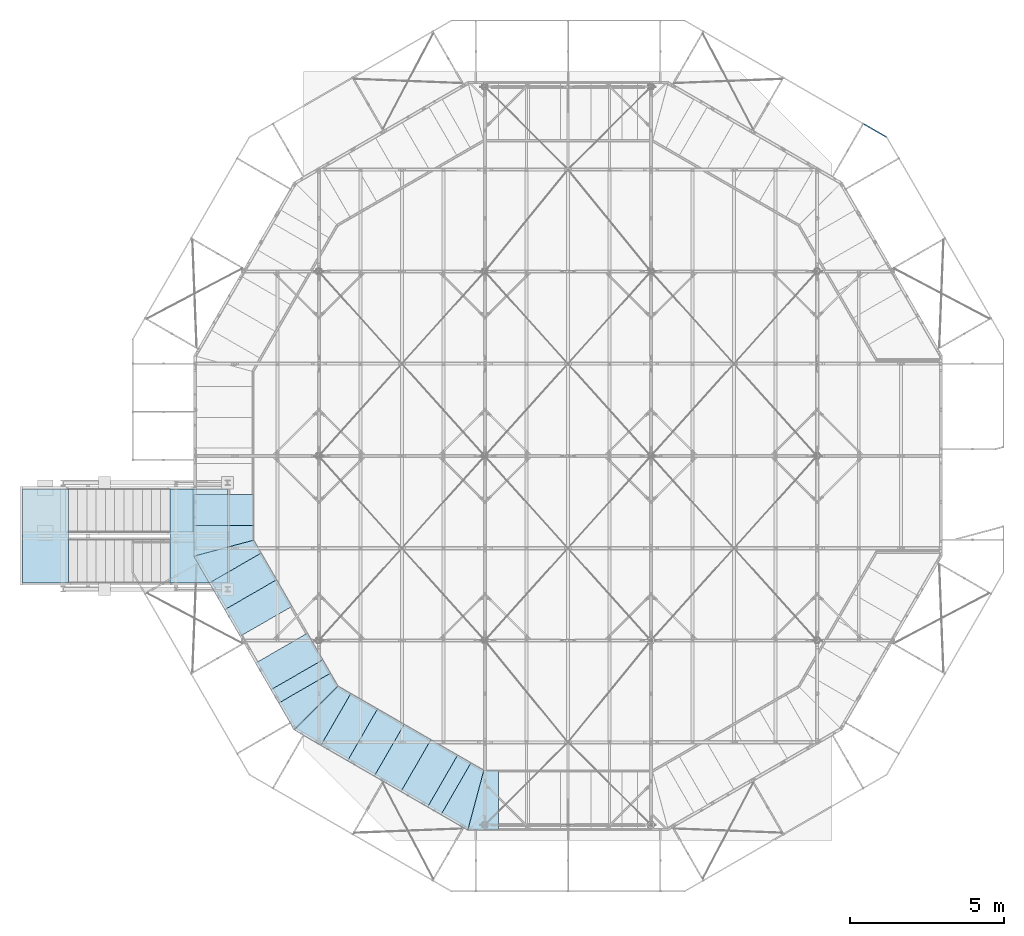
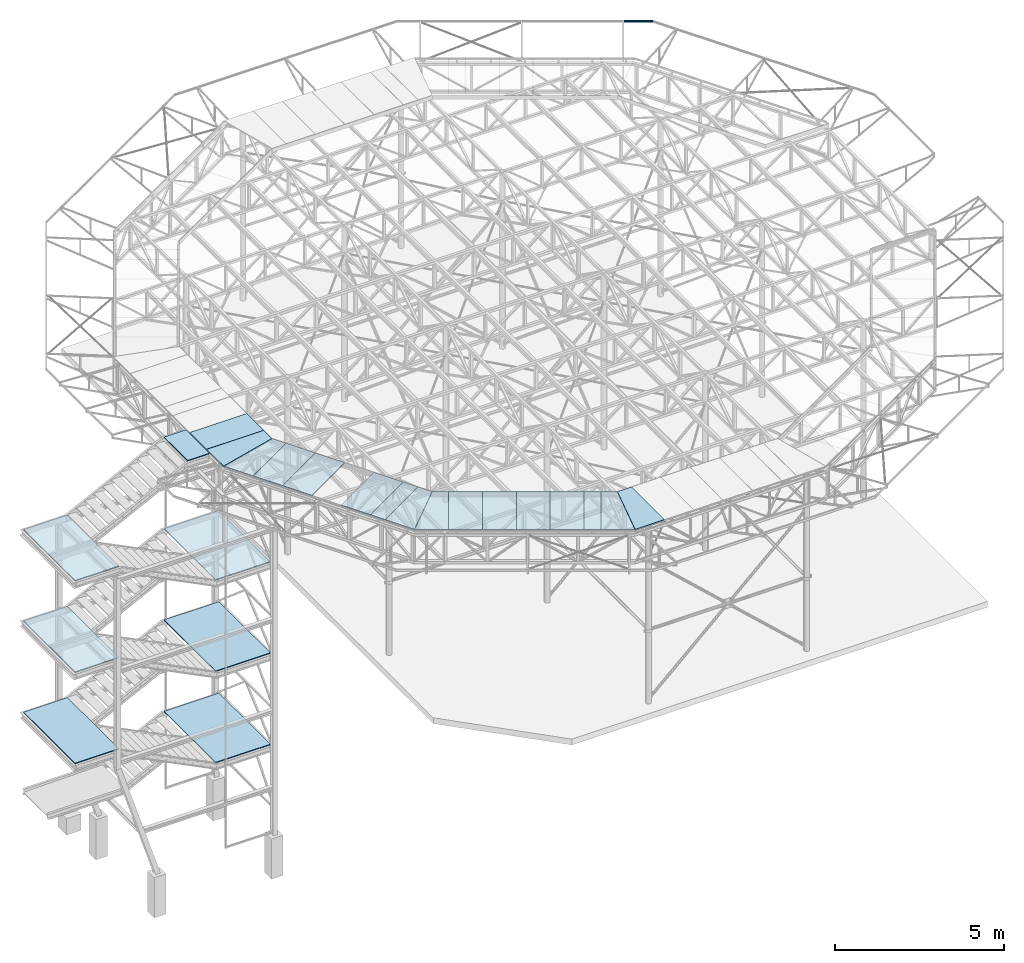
# One storey, part 30 of 132: 39 plates, 1 beam, 40 elements without a shape of their own.
"""IFC2X3 building model written with IfcOpenShell, lengths in millimetres."""

from ifc_helpers import new_model, si_unit, frame, origin_with_axes, origin_2d_with_axis, place, context, subcontext, project, spatial, polyline, u_section, outline, extrude, clip, halfspace, material, type_object, element, aggregate, save


model = new_model("IFC2X3")

# Units and contexts
model_context = context("Model", 3, precision=1e-05, world=origin_with_axes())
body_context = subcontext(model_context, "Body", "Model", "MODEL_VIEW")
ifc_project = project(units=[si_unit("LENGTHUNIT", "METRE", prefix="MILLI"), si_unit("AREAUNIT", "SQUARE_METRE"), si_unit("VOLUMEUNIT", "CUBIC_METRE"), si_unit("MASSUNIT", "GRAM", prefix="KILO"), si_unit("TIMEUNIT", "SECOND"), si_unit("PLANEANGLEUNIT", "RADIAN"), si_unit("SOLIDANGLEUNIT", "STERADIAN"), si_unit("THERMODYNAMICTEMPERATUREUNIT", "DEGREE_CELSIUS"), si_unit("LUMINOUSINTENSITYUNIT", "LUMEN")], contexts=[model_context])

# Site, building, storey
site_placement = place(None, origin_with_axes())
site = spatial("IfcSite", under=ifc_project, at=site_placement, Name="Budowa", CompositionType="ELEMENT")
building_placement = place(site_placement, origin_with_axes())
building = spatial("IfcBuilding", under=site, at=building_placement, Name="Undefined", CompositionType="ELEMENT")
storey_placement = place(building_placement, origin_with_axes())
storey = spatial("IfcBuildingStorey", under=building, at=storey_placement, Name="Undefined", CompositionType="ELEMENT", Elevation=0.0)

# Assembly, beam
assembly_1_placement = place(storey_placement, origin_with_axes())
assembly_1 = element("IfcElementAssembly", 1, at=assembly_1_placement, inside=storey, Name="Steel Assembly", AssemblyPlace="NOTDEFINED", PredefinedType="RIGID_FRAME")
ifc_material = material(Name="STEEL/S235")
beam_type = type_object("IfcBeamType", Name="C70*40*4", PredefinedType="NOTDEFINED")
beam_placement = place(assembly_1_placement, frame((22567.3094473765, 22316.0563407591, 13945.0050192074), z_axis=(0.0, 0.0, -1.0), x_axis=(-0.866042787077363, 0.499969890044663, 0.0)))
beam = element("IfcBeam", 2, at=beam_placement, type_object=beam_type, material=ifc_material, Name="BEAM", ObjectType="C70*40*4", context=body_context, shape_type="Clipping", body=[
    clip(extrude(u_section(Depth=70.0, FlangeWidth=40.0, WebThickness=4.0, FlangeThickness=4.0, FilletRadius=6.0, at=origin_2d_with_axis()), frame((950.000000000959, 1.82248795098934e-14, 0.0), z_axis=(-1.0, 0.0, 0.0), x_axis=(0.0, -1.0, 0.0)), (0.0, 0.0, 1.0), 895.26), halfspace(frame((87.0775807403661, 20.0000000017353, 1.32422428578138e-09), z_axis=(0.965919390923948, 0.258843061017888, 0.0), x_axis=(0.0, 0.0, -1.0)), True)),
])
aggregate(assembly_1, [beam])

# Assembly, plate
assembly_2_placement = place(storey_placement, origin_with_axes())
assembly_2 = element("IfcElementAssembly", 3, at=assembly_2_placement, inside=storey, Name="Steel Assembly", AssemblyPlace="NOTDEFINED", PredefinedType="RIGID_FRAME")
plate_type_1 = type_object("IfcPlateType", Name="BL2*1000", PredefinedType="NOTDEFINED")
plate_1_placement = place(assembly_2_placement, frame((-43.933160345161, 10745.711285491, 14031.0000000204), z_axis=(0.0, 0.0, 1.0), x_axis=(-2.66729999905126e-05, -0.999999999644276, 0.0)))
plate_1 = element("IfcPlate", 4, at=plate_1_placement, type_object=plate_type_1, material=ifc_material, Name="BLACHA RYFLOWANA", ObjectType="BL2*1000", context=body_context, shape_type="SweptSolid", body=[
    extrude(outline(polyline([(0.0, 0.0), (999.999999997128, 3.78349795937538e-10), (999.99999999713, 1950.9999999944), (-9.92986315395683e-09, 1950.9999999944), (0.0, 0.0)])), frame((0.0, 0.0, -0.999999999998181), z_axis=(0.0, 0.0, 1.0), x_axis=(1.0, 0.0, 0.0)), (0.0, 0.0, 1.0), 2.0),
])
aggregate(assembly_2, [plate_1])

assembly_3_placement = place(storey_placement, origin_with_axes())
assembly_3 = element("IfcElementAssembly", 5, at=assembly_3_placement, inside=storey, Name="Steel Assembly", AssemblyPlace="NOTDEFINED", PredefinedType="RIGID_FRAME")
plate_2_placement = place(assembly_3_placement, frame((459.486653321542, 7867.18398813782, 14030.9999999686), z_axis=(0.0, 0.0, 1.0), x_axis=(0.500003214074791, -0.866023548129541, 0.0)))
plate_2 = element("IfcPlate", 6, at=plate_2_placement, type_object=plate_type_1, material=ifc_material, Name="BLACHA RYFLOWANA", ObjectType="BL2*1000", context=body_context, shape_type="SweptSolid", body=[
    extrude(outline(polyline([(0.0, 0.0), (999.999999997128, 3.78349795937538e-10), (999.99999999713, 1950.9999999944), (-9.92986315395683e-09, 1950.9999999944), (0.0, 0.0)])), frame((0.0, 0.0, -0.999999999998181), z_axis=(0.0, 0.0, 1.0), x_axis=(1.0, 0.0, 0.0)), (0.0, 0.0, 1.0), 2.0),
])
aggregate(assembly_3, [plate_2])

assembly_4_placement = place(storey_placement, origin_with_axes())
assembly_4 = element("IfcElementAssembly", 7, at=assembly_4_placement, inside=storey, Name="Steel Assembly", AssemblyPlace="NOTDEFINED", PredefinedType="RIGID_FRAME")
plate_3_placement = place(assembly_4_placement, frame((960.489873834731, 6999.42839288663, 14030.9999999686), z_axis=(0.0, 0.0, 1.0), x_axis=(0.500003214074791, -0.866023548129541, 0.0)))
plate_3 = element("IfcPlate", 8, at=plate_3_placement, type_object=plate_type_1, material=ifc_material, Name="BLACHA RYFLOWANA", ObjectType="BL2*1000", context=body_context, shape_type="SweptSolid", body=[
    extrude(outline(polyline([(0.0, 0.0), (999.999999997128, 3.78349795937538e-10), (999.99999999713, 1950.9999999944), (-9.92986315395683e-09, 1950.9999999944), (0.0, 0.0)])), frame((0.0, 0.0, -0.999999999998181), z_axis=(0.0, 0.0, 1.0), x_axis=(1.0, 0.0, 0.0)), (0.0, 0.0, 1.0), 2.0),
])
aggregate(assembly_4, [plate_3])

assembly_5_placement = place(storey_placement, origin_with_axes())
assembly_5 = element("IfcElementAssembly", 9, at=assembly_5_placement, inside=storey, Name="Steel Assembly", AssemblyPlace="NOTDEFINED", PredefinedType="RIGID_FRAME")
plate_4_placement = place(assembly_5_placement, frame((1962.49631486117, 5263.91720238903, 14030.9999999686), z_axis=(0.0, 0.0, 1.0), x_axis=(0.500003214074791, -0.866023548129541, 0.0)))
plate_4 = element("IfcPlate", 10, at=plate_4_placement, type_object=plate_type_1, material=ifc_material, Name="BLACHA RYFLOWANA", ObjectType="BL2*1000", context=body_context, shape_type="SweptSolid", body=[
    extrude(outline(polyline([(0.0, 0.0), (999.999999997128, 3.78349795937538e-10), (999.99999999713, 1950.9999999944), (-9.92986315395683e-09, 1950.9999999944), (0.0, 0.0)])), frame((0.0, 0.0, -0.999999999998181), z_axis=(0.0, 0.0, 1.0), x_axis=(1.0, 0.0, 0.0)), (0.0, 0.0, 1.0), 2.0),
])
aggregate(assembly_5, [plate_4])

assembly_6_placement = place(storey_placement, origin_with_axes())
assembly_6 = element("IfcElementAssembly", 11, at=assembly_6_placement, inside=storey, Name="Steel Assembly", AssemblyPlace="NOTDEFINED", PredefinedType="RIGID_FRAME")
plate_5_placement = place(assembly_6_placement, frame((4088.83603768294, 2588.14081921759, 14031.0), z_axis=(0.0, 0.0, 1.0), x_axis=(0.86604520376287, -0.499965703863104, 0.0)))
plate_5 = element("IfcPlate", 12, at=plate_5_placement, type_object=plate_type_1, material=ifc_material, Name="BLACHA RYFLOWANA", ObjectType="BL2*1000", context=body_context, shape_type="SweptSolid", body=[
    extrude(outline(polyline([(0.0, 0.0), (999.999999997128, 3.78349795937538e-10), (999.99999999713, 1950.9999999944), (-9.92986315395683e-09, 1950.9999999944), (0.0, 0.0)])), frame((0.0, 0.0, -0.999999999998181), z_axis=(0.0, 0.0, 1.0), x_axis=(1.0, 0.0, 0.0)), (0.0, 0.0, 1.0), 2.0),
])
aggregate(assembly_6, [plate_5])

assembly_7_placement = place(storey_placement, origin_with_axes())
assembly_7 = element("IfcElementAssembly", 13, at=assembly_7_placement, inside=storey, Name="Steel Assembly", AssemblyPlace="NOTDEFINED", PredefinedType="RIGID_FRAME")
plate_6_placement = place(assembly_7_placement, frame((4956.61333187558, 2087.17518392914, 14031.0), z_axis=(0.0, 0.0, 1.0), x_axis=(0.86604520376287, -0.499965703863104, 0.0)))
plate_6 = element("IfcPlate", 14, at=plate_6_placement, type_object=plate_type_1, material=ifc_material, Name="BLACHA RYFLOWANA", ObjectType="BL2*1000", context=body_context, shape_type="SweptSolid", body=[
    extrude(outline(polyline([(0.0, 0.0), (999.999999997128, 3.78349795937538e-10), (999.99999999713, 1950.9999999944), (-9.92986315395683e-09, 1950.9999999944), (0.0, 0.0)])), frame((0.0, 0.0, -0.999999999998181), z_axis=(0.0, 0.0, 1.0), x_axis=(1.0, 0.0, 0.0)), (0.0, 0.0, 1.0), 2.0),
])
aggregate(assembly_7, [plate_6])

assembly_8_placement = place(storey_placement, origin_with_axes())
assembly_8 = element("IfcElementAssembly", 15, at=assembly_8_placement, inside=storey, Name="Steel Assembly", AssemblyPlace="NOTDEFINED", PredefinedType="RIGID_FRAME")
plate_7_placement = place(assembly_8_placement, frame((5824.39062606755, 1586.20954864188, 14031.0), z_axis=(0.0, 0.0, 1.0), x_axis=(0.86604520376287, -0.499965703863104, 0.0)))
plate_7 = element("IfcPlate", 16, at=plate_7_placement, type_object=plate_type_1, material=ifc_material, Name="BLACHA RYFLOWANA", ObjectType="BL2*1000", context=body_context, shape_type="SweptSolid", body=[
    extrude(outline(polyline([(0.0, 0.0), (999.999999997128, 3.78349795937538e-10), (999.99999999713, 1950.9999999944), (-9.92986315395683e-09, 1950.9999999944), (0.0, 0.0)])), frame((0.0, 0.0, -0.999999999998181), z_axis=(0.0, 0.0, 1.0), x_axis=(1.0, 0.0, 0.0)), (0.0, 0.0, 1.0), 2.0),
])
aggregate(assembly_8, [plate_7])

assembly_9_placement = place(storey_placement, origin_with_axes())
assembly_9 = element("IfcElementAssembly", 17, at=assembly_9_placement, inside=storey, Name="Steel Assembly", AssemblyPlace="NOTDEFINED", PredefinedType="RIGID_FRAME")
plate_8_placement = place(assembly_9_placement, frame((6692.16792025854, 1085.24391335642, 14031.0), z_axis=(0.0, 0.0, 1.0), x_axis=(0.86604520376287, -0.499965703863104, 0.0)))
plate_8 = element("IfcPlate", 18, at=plate_8_placement, type_object=plate_type_1, material=ifc_material, Name="BLACHA RYFLOWANA", ObjectType="BL2*1000", context=body_context, shape_type="SweptSolid", body=[
    extrude(outline(polyline([(0.0, 0.0), (999.999999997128, 3.78349795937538e-10), (999.99999999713, 1950.9999999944), (-9.92986315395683e-09, 1950.9999999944), (0.0, 0.0)])), frame((0.0, 0.0, -0.999999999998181), z_axis=(0.0, 0.0, 1.0), x_axis=(1.0, 0.0, 0.0)), (0.0, 0.0, 1.0), 2.0),
])
aggregate(assembly_9, [plate_8])

assembly_10_placement = place(storey_placement, origin_with_axes())
assembly_10 = element("IfcElementAssembly", 19, at=assembly_10_placement, inside=storey, Name="Steel Assembly", AssemblyPlace="NOTDEFINED", PredefinedType="RIGID_FRAME")
plate_type_2 = type_object("IfcPlateType", Name="BL2*1002", PredefinedType="NOTDEFINED")
plate_9_placement = place(assembly_10_placement, frame((1906.99979082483, 9744.53343403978, 14030.999999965), z_axis=(0.0, 0.0, -1.0), x_axis=(0.000358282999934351, -0.999999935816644, 0.0)))
plate_9 = element("IfcPlate", 20, at=plate_9_placement, type_object=plate_type_2, material=ifc_material, Name="BLACHA RYFLOWANA", ObjectType="BL2*1002", context=body_context, shape_type="SweptSolid", body=[
    extrude(outline(polyline([(0.0, 0.0), (481.607696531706, 5.82076609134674e-10), (1002.48809814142, 1950.90051268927), (-3.37786332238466e-08, 1950.90051268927), (0.0, 0.0)])), frame((0.0, 0.0, -0.999999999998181), z_axis=(0.0, 0.0, 1.0), x_axis=(1.0, 0.0, 0.0)), (0.0, 0.0, 1.0), 2.0),
])
aggregate(assembly_10, [plate_9])

assembly_11_placement = place(storey_placement, origin_with_axes())
assembly_11 = element("IfcElementAssembly", 21, at=assembly_11_placement, inside=storey, Name="Steel Assembly", AssemblyPlace="NOTDEFINED", PredefinedType="RIGID_FRAME")
plate_10_placement = place(assembly_11_placement, frame((2147.72417327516, 8844.87183460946, 14030.999999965), z_axis=(0.0, 0.0, 1.0), x_axis=(-0.500003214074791, 0.86602354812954, 0.0)))
plate_10 = element("IfcPlate", 22, at=plate_10_placement, type_object=plate_type_2, material=ifc_material, Name="BLACHA RYFLOWANA", ObjectType="BL2*1002", context=body_context, shape_type="SweptSolid", body=[
    extrude(outline(polyline([(0.0, 0.0), (481.607696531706, 5.82076609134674e-10), (1002.48809814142, 1950.90051268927), (-3.37786332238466e-08, 1950.90051268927), (0.0, 0.0)])), frame((0.0, 0.0, -0.999999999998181), z_axis=(0.0, 0.0, 1.0), x_axis=(1.0, 0.0, 0.0)), (0.0, 0.0, 1.0), 2.0),
])
aggregate(assembly_11, [plate_10])

assembly_12_placement = place(storey_placement, origin_with_axes())
assembly_12 = element("IfcElementAssembly", 23, at=assembly_12_placement, inside=storey, Name="Steel Assembly", AssemblyPlace="NOTDEFINED", PredefinedType="RIGID_FRAME")
plate_11_placement = place(assembly_12_placement, frame((4403.26129693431, 4937.44168042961, 14030.9999999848), z_axis=(0.0, 0.0, -1.0), x_axis=(0.500336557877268, -0.865831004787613, 0.0)))
plate_11 = element("IfcPlate", 24, at=plate_11_placement, type_object=plate_type_2, material=ifc_material, Name="BLACHA RYFLOWANA", ObjectType="BL2*1002", context=body_context, shape_type="SweptSolid", body=[
    extrude(outline(polyline([(0.0, 0.0), (481.607696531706, 5.82076609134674e-10), (1002.48809814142, 1950.90051268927), (-3.37786332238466e-08, 1950.90051268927), (0.0, 0.0)])), frame((0.0, 0.0, -0.999999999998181), z_axis=(0.0, 0.0, 1.0), x_axis=(1.0, 0.0, 0.0)), (0.0, 0.0, 1.0), 2.0),
])
aggregate(assembly_12, [plate_11])

assembly_13_placement = place(storey_placement, origin_with_axes())
assembly_13 = element("IfcElementAssembly", 25, at=assembly_13_placement, inside=storey, Name="Steel Assembly", AssemblyPlace="NOTDEFINED", PredefinedType="RIGID_FRAME")
plate_12_placement = place(assembly_13_placement, frame((5061.98801011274, 4278.99701874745, 14030.9999999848), z_axis=(0.0, 0.0, 1.0), x_axis=(-0.866045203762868, 0.499965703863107, 0.0)))
plate_12 = element("IfcPlate", 26, at=plate_12_placement, type_object=plate_type_2, material=ifc_material, Name="BLACHA RYFLOWANA", ObjectType="BL2*1002", context=body_context, shape_type="SweptSolid", body=[
    extrude(outline(polyline([(0.0, 0.0), (481.607696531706, 5.82076609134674e-10), (1002.48809814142, 1950.90051268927), (-3.37786332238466e-08, 1950.90051268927), (0.0, 0.0)])), frame((0.0, 0.0, -0.999999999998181), z_axis=(0.0, 0.0, 1.0), x_axis=(1.0, 0.0, 0.0)), (0.0, 0.0, 1.0), 2.0),
])
aggregate(assembly_13, [plate_12])

assembly_14_placement = place(storey_placement, origin_with_axes())
assembly_14 = element("IfcElementAssembly", 27, at=assembly_14_placement, inside=storey, Name="Steel Assembly", AssemblyPlace="NOTDEFINED", PredefinedType="RIGID_FRAME")
plate_13_placement = place(assembly_14_placement, frame((8969.41828282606, 2023.24741340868, 14031.0323764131), z_axis=(0.0, 0.0, -1.0), x_axis=(0.86604520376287, -0.499965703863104, 0.0)))
plate_13 = element("IfcPlate", 28, at=plate_13_placement, type_object=plate_type_2, material=ifc_material, Name="BLACHA RYFLOWANA", ObjectType="BL2*1002", context=body_context, shape_type="SweptSolid", body=[
    extrude(outline(polyline([(0.0, 0.0), (481.607696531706, 5.82076609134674e-10), (1002.48809814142, 1950.90051268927), (-3.37786332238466e-08, 1950.90051268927), (0.0, 0.0)])), frame((0.0, 0.0, -0.999999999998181), z_axis=(0.0, 0.0, 1.0), x_axis=(1.0, 0.0, 0.0)), (0.0, 0.0, 1.0), 2.0),
])
aggregate(assembly_14, [plate_13])

assembly_15_placement = place(storey_placement, origin_with_axes())
assembly_15 = element("IfcElementAssembly", 29, at=assembly_15_placement, inside=storey, Name="Steel Assembly", AssemblyPlace="NOTDEFINED", PredefinedType="RIGID_FRAME")
plate_14_placement = place(assembly_15_placement, frame((9869.09565698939, 1782.00051273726, 14031.0323764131), z_axis=(0.0, 0.0, 1.0), x_axis=(-1.0, 0.0, 0.0)))
plate_14 = element("IfcPlate", 30, at=plate_14_placement, type_object=plate_type_2, material=ifc_material, Name="BLACHA RYFLOWANA", ObjectType="BL2*1002", context=body_context, shape_type="SweptSolid", body=[
    extrude(outline(polyline([(0.0, 0.0), (481.607696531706, 5.82076609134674e-10), (1002.48809814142, 1950.90051268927), (-3.37786332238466e-08, 1950.90051268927), (0.0, 0.0)])), frame((0.0, 0.0, -0.999999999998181), z_axis=(0.0, 0.0, 1.0), x_axis=(1.0, 0.0, 0.0)), (0.0, 0.0, 1.0), 2.0),
])
aggregate(assembly_15, [plate_14])

assembly_16_placement = place(storey_placement, origin_with_axes())
assembly_16 = element("IfcElementAssembly", 31, at=assembly_16_placement, inside=storey, Name="Steel Assembly", AssemblyPlace="NOTDEFINED", PredefinedType="RIGID_FRAME")
plate_type_3 = type_object("IfcPlateType", Name="BL2*500", PredefinedType="NOTDEFINED")
plate_15_placement = place(assembly_16_placement, frame((2463.49953537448, 4396.16160714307, 14030.9999999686), z_axis=(0.0, 0.0, 1.0), x_axis=(0.500003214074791, -0.866023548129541, 0.0)))
plate_15 = element("IfcPlate", 32, at=plate_15_placement, type_object=plate_type_3, material=ifc_material, Name="BLACHA RYFLOWANA", ObjectType="BL2*500", context=body_context, shape_type="SweptSolid", body=[
    extrude(outline(polyline([(0.0, 0.0), (499.999999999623, 8.51287040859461e-10), (499.999999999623, 1950.99999999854), (-9.92986315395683e-09, 1950.9999999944), (0.0, 0.0)])), frame((0.0, 0.0, -0.999999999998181), z_axis=(0.0, 0.0, 1.0), x_axis=(1.0, 0.0, 0.0)), (0.0, 0.0, 1.0), 2.0),
])
aggregate(assembly_16, [plate_15])

assembly_17_placement = place(storey_placement, origin_with_axes())
assembly_17 = element("IfcElementAssembly", 33, at=assembly_17_placement, inside=storey, Name="Steel Assembly", AssemblyPlace="NOTDEFINED", PredefinedType="RIGID_FRAME")
plate_16_placement = place(assembly_17_placement, frame((7559.94521444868, 584.278278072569, 14031.0), z_axis=(0.0, 0.0, 1.0), x_axis=(0.86604520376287, -0.499965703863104, 0.0)))
plate_16 = element("IfcPlate", 34, at=plate_16_placement, type_object=plate_type_3, material=ifc_material, Name="BLACHA RYFLOWANA", ObjectType="BL2*500", context=body_context, shape_type="SweptSolid", body=[
    extrude(outline(polyline([(0.0, 0.0), (499.999999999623, 8.51287040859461e-10), (499.999999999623, 1950.99999999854), (-9.92986315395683e-09, 1950.9999999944), (0.0, 0.0)])), frame((0.0, 0.0, -0.999999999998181), z_axis=(0.0, 0.0, 1.0), x_axis=(1.0, 0.0, 0.0)), (0.0, 0.0, 1.0), 2.0),
])
aggregate(assembly_17, [plate_16])

assembly_18_placement = place(storey_placement, origin_with_axes())
assembly_18 = element("IfcElementAssembly", 35, at=assembly_18_placement, inside=storey, Name="Steel Assembly", AssemblyPlace="NOTDEFINED", PredefinedType="RIGID_FRAME")
plate_type_4 = type_object("IfcPlateType", Name="BL30*750", PredefinedType="NOTDEFINED")
plate_17_placement = place(assembly_18_placement, frame((-70.0000000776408, 10925.0000000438, 14015.0000000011), z_axis=(0.0, 0.0, 1.0), x_axis=(-1.0, 0.0, 0.0)))
plate_17 = element("IfcPlate", 36, at=plate_17_placement, type_object=plate_type_4, material=ifc_material, Name="KRATA", ObjectType="BL30*750", context=body_context, shape_type="SweptSolid", body=[
    extrude(outline(polyline([(0.0, 0.0), (750.0, 0.0), (750.0, 1400.0), (-3.63797880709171e-12, 1400.0), (0.0, 0.0)])), frame((0.0, 0.0, -15.0), z_axis=(0.0, 0.0, 1.0), x_axis=(1.0, 0.0, 0.0)), (0.0, 0.0, 1.0), 30.0),
])
aggregate(assembly_18, [plate_17])

assembly_19_placement = place(storey_placement, origin_with_axes())
assembly_19 = element("IfcElementAssembly", 37, at=assembly_19_placement, inside=storey, Name="Steel Assembly", AssemblyPlace="NOTDEFINED", PredefinedType="RIGID_FRAME")
plate_type_5 = type_object("IfcPlateType", Name="BL30*1500", PredefinedType="NOTDEFINED")
plate_18_placement = place(assembly_19_placement, frame((-5620.00000008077, 7875.00000004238, 12364.9999999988), z_axis=(0.0, 0.0, 1.0), x_axis=(1.0, 0.0, 0.0)))
plate_18 = element("IfcPlate", 38, at=plate_18_placement, type_object=plate_type_5, material=ifc_material, Name="KRATA", ObjectType="BL30*1500", context=body_context, shape_type="SweptSolid", body=[
    extrude(outline(polyline([(0.0, 0.0), (1500.0, 0.0), (1500.0, 3050.0), (0.0, 3050.0), (0.0, 0.0)])), frame((0.0, 0.0, -15.0), z_axis=(0.0, 0.0, 1.0), x_axis=(1.0, 0.0, 0.0)), (0.0, 0.0, 1.0), 30.0),
])
aggregate(assembly_19, [plate_18])

assembly_20_placement = place(storey_placement, origin_with_axes())
assembly_20 = element("IfcElementAssembly", 39, at=assembly_20_placement, inside=storey, Name="Steel Assembly", AssemblyPlace="NOTDEFINED", PredefinedType="RIGID_FRAME")
plate_19_placement = place(assembly_20_placement, frame((-5620.00000008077, 7875.00000004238, 9064.99999999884), z_axis=(0.0, 0.0, 1.0), x_axis=(1.0, 0.0, 0.0)))
plate_19 = element("IfcPlate", 40, at=plate_19_placement, type_object=plate_type_5, material=ifc_material, Name="KRATA", ObjectType="BL30*1500", context=body_context, shape_type="SweptSolid", body=[
    extrude(outline(polyline([(0.0, 0.0), (1500.0, 0.0), (1500.0, 3050.0), (0.0, 3050.0), (0.0, 0.0)])), frame((0.0, 0.0, -15.0), z_axis=(0.0, 0.0, 1.0), x_axis=(1.0, 0.0, 0.0)), (0.0, 0.0, 1.0), 30.0),
])
aggregate(assembly_20, [plate_19])

assembly_21_placement = place(storey_placement, origin_with_axes())
assembly_21 = element("IfcElementAssembly", 41, at=assembly_21_placement, inside=storey, Name="Steel Assembly", AssemblyPlace="NOTDEFINED", PredefinedType="RIGID_FRAME")
plate_20_placement = place(assembly_21_placement, frame((-5620.00000008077, 7875.00000004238, 5764.99999999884), z_axis=(0.0, 0.0, 1.0), x_axis=(1.0, 0.0, 0.0)))
plate_20 = element("IfcPlate", 42, at=plate_20_placement, type_object=plate_type_5, material=ifc_material, Name="KRATA", ObjectType="BL30*1500", context=body_context, shape_type="SweptSolid", body=[
    extrude(outline(polyline([(0.0, 0.0), (1500.0, 0.0), (1500.0, 3050.0), (0.0, 3050.0), (0.0, 0.0)])), frame((0.0, 0.0, -15.0), z_axis=(0.0, 0.0, 1.0), x_axis=(1.0, 0.0, 0.0)), (0.0, 0.0, 1.0), 30.0),
])
aggregate(assembly_21, [plate_20])

assembly_22_placement = place(storey_placement, origin_with_axes())
assembly_22 = element("IfcElementAssembly", 43, at=assembly_22_placement, inside=storey, Name="Steel Assembly", AssemblyPlace="NOTDEFINED", PredefinedType="RIGID_FRAME")
plate_type_6 = type_object("IfcPlateType", Name="BL30*1875", PredefinedType="NOTDEFINED")
plate_21_placement = place(assembly_22_placement, frame((-820.000000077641, 10925.0000000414, 10715.0), z_axis=(0.0, 0.0, 1.0), x_axis=(0.0, -1.0, 0.0)))
plate_21 = element("IfcPlate", 44, at=plate_21_placement, type_object=plate_type_6, material=ifc_material, Name="KRATA", ObjectType="BL30*1875", context=body_context, shape_type="SweptSolid", body=[
    extrude(outline(polyline([(0.0, 0.0), (3050.0, 1.13686837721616e-13), (3050.0, 1875.0), (-2.45563569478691e-09, 1875.0), (0.0, 0.0)])), frame((0.0, 0.0, -15.0), z_axis=(0.0, 0.0, 1.0), x_axis=(1.0, 0.0, 0.0)), (0.0, 0.0, 1.0), 30.0),
])
aggregate(assembly_22, [plate_21])

assembly_23_placement = place(storey_placement, origin_with_axes())
assembly_23 = element("IfcElementAssembly", 45, at=assembly_23_placement, inside=storey, Name="Steel Assembly", AssemblyPlace="NOTDEFINED", PredefinedType="RIGID_FRAME")
plate_22_placement = place(assembly_23_placement, frame((-820.000000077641, 10925.0000000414, 7415.0), z_axis=(0.0, 0.0, 1.0), x_axis=(0.0, -1.0, 0.0)))
plate_22 = element("IfcPlate", 46, at=plate_22_placement, type_object=plate_type_6, material=ifc_material, Name="KRATA", ObjectType="BL30*1875", context=body_context, shape_type="SweptSolid", body=[
    extrude(outline(polyline([(0.0, 0.0), (3050.0, 1.13686837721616e-13), (3050.0, 1875.0), (-2.45563569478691e-09, 1875.0), (0.0, 0.0)])), frame((0.0, 0.0, -15.0), z_axis=(0.0, 0.0, 1.0), x_axis=(1.0, 0.0, 0.0)), (0.0, 0.0, 1.0), 30.0),
])
aggregate(assembly_23, [plate_22])

assembly_24_placement = place(storey_placement, origin_with_axes())
assembly_24 = element("IfcElementAssembly", 47, at=assembly_24_placement, inside=storey, Name="Steel Assembly", AssemblyPlace="NOTDEFINED", PredefinedType="RIGID_FRAME")
plate_23_placement = place(assembly_24_placement, frame((-820.000000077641, 10925.0000000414, 4115.0), z_axis=(0.0, 0.0, 1.0), x_axis=(0.0, -1.0, 0.0)))
plate_23 = element("IfcPlate", 48, at=plate_23_placement, type_object=plate_type_6, material=ifc_material, Name="KRATA", ObjectType="BL30*1875", context=body_context, shape_type="SweptSolid", body=[
    extrude(outline(polyline([(0.0, 0.0), (3050.0, 1.13686837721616e-13), (3050.0, 1875.0), (-2.45563569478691e-09, 1875.0), (0.0, 0.0)])), frame((0.0, 0.0, -15.0), z_axis=(0.0, 0.0, 1.0), x_axis=(1.0, 0.0, 0.0)), (0.0, 0.0, 1.0), 30.0),
])
aggregate(assembly_24, [plate_23])

assembly_25_placement = place(storey_placement, origin_with_axes())
assembly_25 = element("IfcElementAssembly", 49, at=assembly_25_placement, inside=storey, Name="Steel Assembly", AssemblyPlace="NOTDEFINED", PredefinedType="RIGID_FRAME")
plate_type_7 = type_object("IfcPlateType", Name="BL40*1000", PredefinedType="NOTDEFINED")
plate_24_placement = place(assembly_25_placement, frame((-43.933160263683, 10745.7112854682, 14010.0), z_axis=(0.0, 0.0, 1.0), x_axis=(-2.66729999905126e-05, -0.999999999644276, 0.0)))
plate_24 = element("IfcPlate", 50, at=plate_24_placement, type_object=plate_type_7, material=ifc_material, Name="KRATA", ObjectType="BL40*1000", context=body_context, shape_type="SweptSolid", body=[
    extrude(outline(polyline([(0.0, 0.0), (999.999999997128, 3.78349795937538e-10), (999.99999999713, 1950.9999999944), (-9.92986315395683e-09, 1950.9999999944), (0.0, 0.0)])), frame((0.0, 0.0, -20.0), z_axis=(0.0, 0.0, 1.0), x_axis=(1.0, 0.0, 0.0)), (0.0, 0.0, 1.0), 40.0),
])
aggregate(assembly_25, [plate_24])

assembly_26_placement = place(storey_placement, origin_with_axes())
assembly_26 = element("IfcElementAssembly", 51, at=assembly_26_placement, inside=storey, Name="Steel Assembly", AssemblyPlace="NOTDEFINED", PredefinedType="RIGID_FRAME")
plate_25_placement = place(assembly_26_placement, frame((459.486653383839, 7867.18398811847, 14010.0), z_axis=(0.0, 0.0, 1.0), x_axis=(0.500003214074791, -0.866023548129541, 0.0)))
plate_25 = element("IfcPlate", 52, at=plate_25_placement, type_object=plate_type_7, material=ifc_material, Name="KRATA", ObjectType="BL40*1000", context=body_context, shape_type="SweptSolid", body=[
    extrude(outline(polyline([(0.0, 0.0), (999.999999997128, 3.78349795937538e-10), (999.99999999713, 1950.9999999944), (-9.92986315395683e-09, 1950.9999999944), (0.0, 0.0)])), frame((0.0, 0.0, -20.0), z_axis=(0.0, 0.0, 1.0), x_axis=(1.0, 0.0, 0.0)), (0.0, 0.0, 1.0), 40.0),
])
aggregate(assembly_26, [plate_25])

assembly_27_placement = place(storey_placement, origin_with_axes())
assembly_27 = element("IfcElementAssembly", 53, at=assembly_27_placement, inside=storey, Name="Steel Assembly", AssemblyPlace="NOTDEFINED", PredefinedType="RIGID_FRAME")
plate_26_placement = place(assembly_27_placement, frame((960.48987389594, 6999.42839286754, 14010.0), z_axis=(0.0, 0.0, 1.0), x_axis=(0.500003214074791, -0.866023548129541, 0.0)))
plate_26 = element("IfcPlate", 54, at=plate_26_placement, type_object=plate_type_7, material=ifc_material, Name="KRATA", ObjectType="BL40*1000", context=body_context, shape_type="SweptSolid", body=[
    extrude(outline(polyline([(0.0, 0.0), (999.999999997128, 3.78349795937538e-10), (999.99999999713, 1950.9999999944), (-9.92986315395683e-09, 1950.9999999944), (0.0, 0.0)])), frame((0.0, 0.0, -20.0), z_axis=(0.0, 0.0, 1.0), x_axis=(1.0, 0.0, 0.0)), (0.0, 0.0, 1.0), 40.0),
])
aggregate(assembly_27, [plate_26])

assembly_28_placement = place(storey_placement, origin_with_axes())
assembly_28 = element("IfcElementAssembly", 55, at=assembly_28_placement, inside=storey, Name="Steel Assembly", AssemblyPlace="NOTDEFINED", PredefinedType="RIGID_FRAME")
plate_27_placement = place(assembly_28_placement, frame((1962.4963149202, 5263.91720237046, 14010.0), z_axis=(0.0, 0.0, 1.0), x_axis=(0.500003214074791, -0.866023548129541, 0.0)))
plate_27 = element("IfcPlate", 56, at=plate_27_placement, type_object=plate_type_7, material=ifc_material, Name="KRATA", ObjectType="BL40*1000", context=body_context, shape_type="SweptSolid", body=[
    extrude(outline(polyline([(0.0, 0.0), (999.999999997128, 3.78349795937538e-10), (999.99999999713, 1950.9999999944), (-9.92986315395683e-09, 1950.9999999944), (0.0, 0.0)])), frame((0.0, 0.0, -20.0), z_axis=(0.0, 0.0, 1.0), x_axis=(1.0, 0.0, 0.0)), (0.0, 0.0, 1.0), 40.0),
])
aggregate(assembly_28, [plate_27])

assembly_29_placement = place(storey_placement, origin_with_axes())
assembly_29 = element("IfcElementAssembly", 57, at=assembly_29_placement, inside=storey, Name="Steel Assembly", AssemblyPlace="NOTDEFINED", PredefinedType="RIGID_FRAME")
plate_28_placement = place(assembly_29_placement, frame((4088.8360377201, 2588.14081920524, 14010.0), z_axis=(0.0, 0.0, 1.0), x_axis=(0.86604520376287, -0.499965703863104, 0.0)))
plate_28 = element("IfcPlate", 58, at=plate_28_placement, type_object=plate_type_7, material=ifc_material, Name="KRATA", ObjectType="BL40*1000", context=body_context, shape_type="SweptSolid", body=[
    extrude(outline(polyline([(0.0, 0.0), (999.999999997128, 3.78349795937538e-10), (999.99999999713, 1950.9999999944), (-9.92986315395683e-09, 1950.9999999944), (0.0, 0.0)])), frame((0.0, 0.0, -20.0), z_axis=(0.0, 0.0, 1.0), x_axis=(1.0, 0.0, 0.0)), (0.0, 0.0, 1.0), 40.0),
])
aggregate(assembly_29, [plate_28])

assembly_30_placement = place(storey_placement, origin_with_axes())
assembly_30 = element("IfcElementAssembly", 59, at=assembly_30_placement, inside=storey, Name="Steel Assembly", AssemblyPlace="NOTDEFINED", PredefinedType="RIGID_FRAME")
plate_29_placement = place(assembly_30_placement, frame((4956.61333191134, 2087.17518391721, 14010.0), z_axis=(0.0, 0.0, 1.0), x_axis=(0.86604520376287, -0.499965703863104, 0.0)))
plate_29 = element("IfcPlate", 60, at=plate_29_placement, type_object=plate_type_7, material=ifc_material, Name="KRATA", ObjectType="BL40*1000", context=body_context, shape_type="SweptSolid", body=[
    extrude(outline(polyline([(0.0, 0.0), (999.999999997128, 3.78349795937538e-10), (999.99999999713, 1950.9999999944), (-9.92986315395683e-09, 1950.9999999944), (0.0, 0.0)])), frame((0.0, 0.0, -20.0), z_axis=(0.0, 0.0, 1.0), x_axis=(1.0, 0.0, 0.0)), (0.0, 0.0, 1.0), 40.0),
])
aggregate(assembly_30, [plate_29])

assembly_31_placement = place(storey_placement, origin_with_axes())
assembly_31 = element("IfcElementAssembly", 61, at=assembly_31_placement, inside=storey, Name="Steel Assembly", AssemblyPlace="NOTDEFINED", PredefinedType="RIGID_FRAME")
plate_30_placement = place(assembly_31_placement, frame((5824.39062610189, 1586.20954863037, 14010.0), z_axis=(0.0, 0.0, 1.0), x_axis=(0.86604520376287, -0.499965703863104, 0.0)))
plate_30 = element("IfcPlate", 62, at=plate_30_placement, type_object=plate_type_7, material=ifc_material, Name="KRATA", ObjectType="BL40*1000", context=body_context, shape_type="SweptSolid", body=[
    extrude(outline(polyline([(0.0, 0.0), (999.999999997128, 3.78349795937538e-10), (999.99999999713, 1950.9999999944), (-9.92986315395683e-09, 1950.9999999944), (0.0, 0.0)])), frame((0.0, 0.0, -20.0), z_axis=(0.0, 0.0, 1.0), x_axis=(1.0, 0.0, 0.0)), (0.0, 0.0, 1.0), 40.0),
])
aggregate(assembly_31, [plate_30])

assembly_32_placement = place(storey_placement, origin_with_axes())
assembly_32 = element("IfcElementAssembly", 63, at=assembly_32_placement, inside=storey, Name="Steel Assembly", AssemblyPlace="NOTDEFINED", PredefinedType="RIGID_FRAME")
plate_31_placement = place(assembly_32_placement, frame((6692.16792029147, 1085.24391334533, 14010.0), z_axis=(0.0, 0.0, 1.0), x_axis=(0.86604520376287, -0.499965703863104, 0.0)))
plate_31 = element("IfcPlate", 64, at=plate_31_placement, type_object=plate_type_7, material=ifc_material, Name="KRATA", ObjectType="BL40*1000", context=body_context, shape_type="SweptSolid", body=[
    extrude(outline(polyline([(0.0, 0.0), (999.999999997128, 3.78349795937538e-10), (999.99999999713, 1950.9999999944), (-9.92986315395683e-09, 1950.9999999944), (0.0, 0.0)])), frame((0.0, 0.0, -20.0), z_axis=(0.0, 0.0, 1.0), x_axis=(1.0, 0.0, 0.0)), (0.0, 0.0, 1.0), 40.0),
])
aggregate(assembly_32, [plate_31])

assembly_33_placement = place(storey_placement, origin_with_axes())
assembly_33 = element("IfcElementAssembly", 65, at=assembly_33_placement, inside=storey, Name="Steel Assembly", AssemblyPlace="NOTDEFINED", PredefinedType="RIGID_FRAME")
plate_type_8 = type_object("IfcPlateType", Name="BL40*1002", PredefinedType="NOTDEFINED")
plate_32_placement = place(assembly_33_placement, frame((1906.99979089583, 9744.53343401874, 14010.0), z_axis=(0.0, 0.0, -1.0), x_axis=(0.000358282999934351, -0.999999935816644, 0.0)))
plate_32 = element("IfcPlate", 66, at=plate_32_placement, type_object=plate_type_8, material=ifc_material, Name="KRATA", ObjectType="BL40*1002", context=body_context, shape_type="SweptSolid", body=[
    extrude(outline(polyline([(0.0, 0.0), (481.607696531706, 5.82076609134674e-10), (1002.48809814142, 1950.90051268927), (-3.37786332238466e-08, 1950.90051268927), (0.0, 0.0)])), frame((0.0, 0.0, -20.0), z_axis=(0.0, 0.0, 1.0), x_axis=(1.0, 0.0, 0.0)), (0.0, 0.0, 1.0), 40.0),
])
aggregate(assembly_33, [plate_32])

assembly_34_placement = place(storey_placement, origin_with_axes())
assembly_34 = element("IfcElementAssembly", 67, at=assembly_34_placement, inside=storey, Name="Steel Assembly", AssemblyPlace="NOTDEFINED", PredefinedType="RIGID_FRAME")
plate_33_placement = place(assembly_34_placement, frame((2147.72417334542, 8844.87183458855, 14010.0), z_axis=(0.0, 0.0, 1.0), x_axis=(-0.500003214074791, 0.86602354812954, 0.0)))
plate_33 = element("IfcPlate", 68, at=plate_33_placement, type_object=plate_type_8, material=ifc_material, Name="KRATA", ObjectType="BL40*1002", context=body_context, shape_type="SweptSolid", body=[
    extrude(outline(polyline([(0.0, 0.0), (481.607696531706, 5.82076609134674e-10), (1002.48809814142, 1950.90051268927), (-3.37786332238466e-08, 1950.90051268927), (0.0, 0.0)])), frame((0.0, 0.0, -20.0), z_axis=(0.0, 0.0, 1.0), x_axis=(1.0, 0.0, 0.0)), (0.0, 0.0, 1.0), 40.0),
])
aggregate(assembly_34, [plate_33])

assembly_35_placement = place(storey_placement, origin_with_axes())
assembly_35 = element("IfcElementAssembly", 69, at=assembly_35_placement, inside=storey, Name="Steel Assembly", AssemblyPlace="NOTDEFINED", PredefinedType="RIGID_FRAME")
plate_34_placement = place(assembly_35_placement, frame((8969.41828285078, 2023.24741340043, 14010.0), z_axis=(0.0, 0.0, -1.0), x_axis=(0.86604520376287, -0.499965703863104, 0.0)))
plate_34 = element("IfcPlate", 70, at=plate_34_placement, type_object=plate_type_8, material=ifc_material, Name="KRATA", ObjectType="BL40*1002", context=body_context, shape_type="SweptSolid", body=[
    extrude(outline(polyline([(0.0, 0.0), (481.607696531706, 5.82076609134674e-10), (1002.48809814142, 1950.90051268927), (-3.37786332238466e-08, 1950.90051268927), (0.0, 0.0)])), frame((0.0, 0.0, -20.0), z_axis=(0.0, 0.0, 1.0), x_axis=(1.0, 0.0, 0.0)), (0.0, 0.0, 1.0), 40.0),
])
aggregate(assembly_35, [plate_34])

assembly_36_placement = place(storey_placement, origin_with_axes())
assembly_36 = element("IfcElementAssembly", 71, at=assembly_36_placement, inside=storey, Name="Steel Assembly", AssemblyPlace="NOTDEFINED", PredefinedType="RIGID_FRAME")
plate_35_placement = place(assembly_36_placement, frame((4403.26129698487, 4937.44168041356, 14010.0), z_axis=(0.0, 0.0, -1.0), x_axis=(0.500336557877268, -0.865831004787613, 0.0)))
plate_35 = element("IfcPlate", 72, at=plate_35_placement, type_object=plate_type_8, material=ifc_material, Name="KRATA", ObjectType="BL40*1002", context=body_context, shape_type="SweptSolid", body=[
    extrude(outline(polyline([(0.0, 0.0), (481.607696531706, 5.82076609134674e-10), (1002.48809814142, 1950.90051268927), (-3.37786332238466e-08, 1950.90051268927), (0.0, 0.0)])), frame((0.0, 0.0, -20.0), z_axis=(0.0, 0.0, 1.0), x_axis=(1.0, 0.0, 0.0)), (0.0, 0.0, 1.0), 40.0),
])
aggregate(assembly_36, [plate_35])

assembly_37_placement = place(storey_placement, origin_with_axes())
assembly_37 = element("IfcElementAssembly", 73, at=assembly_37_placement, inside=storey, Name="Steel Assembly", AssemblyPlace="NOTDEFINED", PredefinedType="RIGID_FRAME")
plate_36_placement = place(assembly_37_placement, frame((5061.9880101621, 4278.99701873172, 14010.0), z_axis=(0.0, 0.0, 1.0), x_axis=(-0.866045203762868, 0.499965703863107, 0.0)))
plate_36 = element("IfcPlate", 74, at=plate_36_placement, type_object=plate_type_8, material=ifc_material, Name="KRATA", ObjectType="BL40*1002", context=body_context, shape_type="SweptSolid", body=[
    extrude(outline(polyline([(0.0, 0.0), (481.607696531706, 5.82076609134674e-10), (1002.48809814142, 1950.90051268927), (-3.37786332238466e-08, 1950.90051268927), (0.0, 0.0)])), frame((0.0, 0.0, -20.0), z_axis=(0.0, 0.0, 1.0), x_axis=(1.0, 0.0, 0.0)), (0.0, 0.0, 1.0), 40.0),
])
aggregate(assembly_37, [plate_36])

assembly_38_placement = place(storey_placement, origin_with_axes())
assembly_38 = element("IfcElementAssembly", 75, at=assembly_38_placement, inside=storey, Name="Steel Assembly", AssemblyPlace="NOTDEFINED", PredefinedType="RIGID_FRAME")
plate_37_placement = place(assembly_38_placement, frame((9869.09565701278, 1782.00051272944, 14010.0), z_axis=(0.0, 0.0, 1.0), x_axis=(-1.0, 0.0, 0.0)))
plate_37 = element("IfcPlate", 76, at=plate_37_placement, type_object=plate_type_8, material=ifc_material, Name="KRATA", ObjectType="BL40*1002", context=body_context, shape_type="SweptSolid", body=[
    extrude(outline(polyline([(0.0, 0.0), (481.607696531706, 5.82076609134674e-10), (1002.48809814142, 1950.90051268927), (-3.37786332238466e-08, 1950.90051268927), (0.0, 0.0)])), frame((0.0, 0.0, -20.0), z_axis=(0.0, 0.0, 1.0), x_axis=(1.0, 0.0, 0.0)), (0.0, 0.0, 1.0), 40.0),
])
aggregate(assembly_38, [plate_37])

assembly_39_placement = place(storey_placement, origin_with_axes())
assembly_39 = element("IfcElementAssembly", 77, at=assembly_39_placement, inside=storey, Name="Steel Assembly", AssemblyPlace="NOTDEFINED", PredefinedType="RIGID_FRAME")
plate_type_9 = type_object("IfcPlateType", Name="BL40*500", PredefinedType="NOTDEFINED")
plate_38_placement = place(assembly_39_placement, frame((2463.49953543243, 4396.16160712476, 14010.0), z_axis=(0.0, 0.0, 1.0), x_axis=(0.500003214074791, -0.866023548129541, 0.0)))
plate_38 = element("IfcPlate", 78, at=plate_38_placement, type_object=plate_type_9, material=ifc_material, Name="KRATA", ObjectType="BL40*500", context=body_context, shape_type="SweptSolid", body=[
    extrude(outline(polyline([(0.0, 0.0), (499.999999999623, 8.51287040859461e-10), (499.999999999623, 1950.99999999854), (-9.92986315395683e-09, 1950.9999999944), (0.0, 0.0)])), frame((0.0, 0.0, -20.0), z_axis=(0.0, 0.0, 1.0), x_axis=(1.0, 0.0, 0.0)), (0.0, 0.0, 1.0), 40.0),
])
aggregate(assembly_39, [plate_38])

assembly_40_placement = place(storey_placement, origin_with_axes())
assembly_40 = element("IfcElementAssembly", 79, at=assembly_40_placement, inside=storey, Name="Steel Assembly", AssemblyPlace="NOTDEFINED", PredefinedType="RIGID_FRAME")
plate_39_placement = place(assembly_40_placement, frame((7559.9452144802, 584.278278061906, 14010.0), z_axis=(0.0, 0.0, 1.0), x_axis=(0.86604520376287, -0.499965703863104, 0.0)))
plate_39 = element("IfcPlate", 80, at=plate_39_placement, type_object=plate_type_9, material=ifc_material, Name="KRATA", ObjectType="BL40*500", context=body_context, shape_type="SweptSolid", body=[
    extrude(outline(polyline([(0.0, 0.0), (499.999999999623, 8.51287040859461e-10), (499.999999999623, 1950.99999999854), (-9.92986315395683e-09, 1950.9999999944), (0.0, 0.0)])), frame((0.0, 0.0, -20.0), z_axis=(0.0, 0.0, 1.0), x_axis=(1.0, 0.0, 0.0)), (0.0, 0.0, 1.0), 40.0),
])
aggregate(assembly_40, [plate_39])

save(model, "model.ifc")
